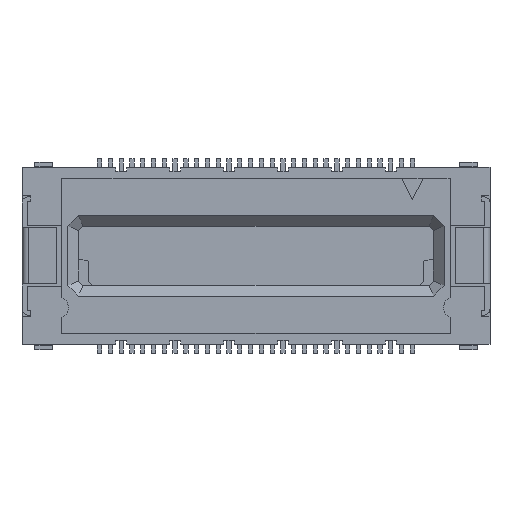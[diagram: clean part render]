
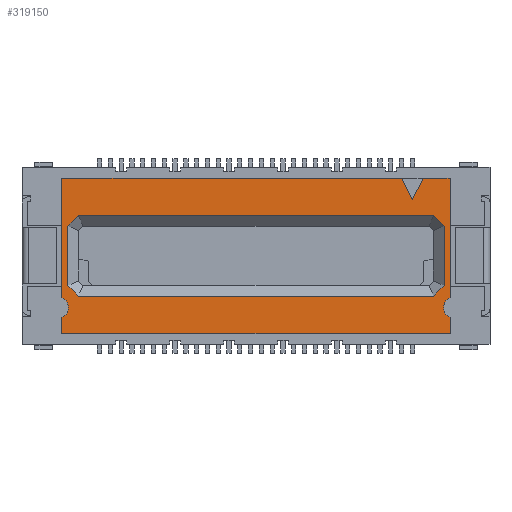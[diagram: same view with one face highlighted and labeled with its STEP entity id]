
A CAD part, top view. The second image highlights one B-rep face of the part: STEP entity #319150.
In plain terms, the highlighted planar face has unit normal (0, 0, 1).
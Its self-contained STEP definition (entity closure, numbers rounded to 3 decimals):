
#2320=CARTESIAN_POINT('',(20.034,-0.955,4.));
#2330=VERTEX_POINT('',#2320);
#2360=CARTESIAN_POINT('',(19.787,-1.202,4.));
#2370=DIRECTION('',(-0.707,-0.707,0.));
#2380=VECTOR('',#2370,1.);
#2390=LINE('',#2360,#2380);
#2400=CARTESIAN_POINT('',(19.541,-1.448,4.));
#2410=VERTEX_POINT('',#2400);
#2420=EDGE_CURVE('',#2330,#2410,#2390,.T.);
#43660=CARTESIAN_POINT('',(19.541,2.292,4.));
#43670=VERTEX_POINT('',#43660);
#43700=CARTESIAN_POINT('',(19.787,2.045,4.));
#43710=DIRECTION('',(0.707,-0.707,0.));
#43720=VECTOR('',#43710,1.);
#43730=LINE('',#43700,#43720);
#43740=CARTESIAN_POINT('',(20.034,1.799,4.));
#43750=VERTEX_POINT('',#43740);
#43760=EDGE_CURVE('',#43670,#43750,#43730,.T.);
#60880=CARTESIAN_POINT('',(3.076,-1.448,4.));
#60890=VERTEX_POINT('',#60880);
#60990=CARTESIAN_POINT('',(-10.581,-1.448,4.));
#61000=DIRECTION('',(-1.,0.,0.));
#61010=VECTOR('',#61000,1.);
#61020=LINE('',#60990,#61010);
#61030=EDGE_CURVE('',#2410,#60890,#61020,.T.);
#75280=CARTESIAN_POINT('',(3.076,2.292,4.));
#75290=VERTEX_POINT('',#75280);
#75320=CARTESIAN_POINT('',(-6.946,2.292,4.));
#75330=DIRECTION('',(1.,0.,0.));
#75340=VECTOR('',#75330,1.);
#75350=LINE('',#75320,#75340);
#75360=EDGE_CURVE('',#75290,#43670,#75350,.T.);
#83430=CARTESIAN_POINT('',(20.309,-1.52,4.));
#83440=VERTEX_POINT('',#83430);
#83600=CARTESIAN_POINT('',(20.309,-2.436,4.));
#83610=VERTEX_POINT('',#83600);
#83640=CARTESIAN_POINT('',(20.509,-1.978,4.));
#83650=DIRECTION('',(0.,0.,1.));
#83660=DIRECTION('',(1.,0.,0.));
#83670=AXIS2_PLACEMENT_3D('',#83640,#83650,#83660);
#83680=CIRCLE('',#83670,0.5);
#83690=EDGE_CURVE('',#83440,#83610,#83680,.T.);
#83830=CARTESIAN_POINT('',(20.309,-3.178,4.));
#83840=VERTEX_POINT('',#83830);
#83890=CARTESIAN_POINT('',(20.309,0.,4.));
#83900=DIRECTION('',(0.,-1.,0.));
#83910=VECTOR('',#83900,1.);
#83920=LINE('',#83890,#83910);
#83930=EDGE_CURVE('',#83610,#83840,#83920,.T.);
#89110=CARTESIAN_POINT('',(17.048,0.,4.));
#89120=DIRECTION('',(0.447,0.894,0.));
#89130=VECTOR('',#89120,1.);
#89140=LINE('',#89110,#89130);
#89150=CARTESIAN_POINT('',(18.559,3.022,4.));
#89160=VERTEX_POINT('',#89150);
#89170=CARTESIAN_POINT('',(19.059,4.022,4.));
#89180=VERTEX_POINT('',#89170);
#89190=EDGE_CURVE('',#89160,#89180,#89140,.T.);
#192890=CARTESIAN_POINT('',(20.07,0.,4.));
#192900=DIRECTION('',(0.447,-0.894,0.));
#192910=VECTOR('',#192900,1.);
#192920=LINE('',#192890,#192910);
#192930=CARTESIAN_POINT('',(18.059,4.022,4.));
#192940=VERTEX_POINT('',#192930);
#192950=EDGE_CURVE('',#192940,#89160,#192920,.T.);
#241770=CARTESIAN_POINT('',(20.309,0.,4.));
#241780=DIRECTION('',(0.,-1.,0.));
#241790=VECTOR('',#241780,1.);
#241800=LINE('',#241770,#241790);
#241810=CARTESIAN_POINT('',(20.309,4.022,4.));
#241820=VERTEX_POINT('',#241810);
#241830=EDGE_CURVE('',#241820,#83440,#241800,.T.);
#303800=CARTESIAN_POINT('',(2.309,-2.436,4.));
#303810=VERTEX_POINT('',#303800);
#303840=CARTESIAN_POINT('',(2.309,0.,4.));
#303850=DIRECTION('',(0.,1.,0.));
#303860=VECTOR('',#303850,1.);
#303870=LINE('',#303840,#303860);
#303880=CARTESIAN_POINT('',(2.309,-3.178,4.));
#303890=VERTEX_POINT('',#303880);
#303900=EDGE_CURVE('',#303890,#303810,#303870,.T.);
#308590=CARTESIAN_POINT('',(20.034,0.422,4.));
#308600=DIRECTION('',(0.,1.,0.));
#308610=VECTOR('',#308600,1.);
#308620=LINE('',#308590,#308610);
#308630=EDGE_CURVE('',#2330,#43750,#308620,.T.);
#318420=CARTESIAN_POINT('',(1.309,-2.313,4.));
#318430=DIRECTION('',(0.,0.,1.));
#318440=DIRECTION('',(1.,0.,0.));
#318450=AXIS2_PLACEMENT_3D('',#318420,#318430,#318440);
#318460=PLANE('',#318450);
#318470=ORIENTED_EDGE('',*,*,#2420,.T.);
#318480=ORIENTED_EDGE('',*,*,#308630,.F.);
#318490=ORIENTED_EDGE('',*,*,#43760,.T.);
#318500=ORIENTED_EDGE('',*,*,#75360,.T.);
#318510=CARTESIAN_POINT('',(2.83,2.045,4.));
#318520=DIRECTION('',(-0.707,-0.707,0.));
#318530=VECTOR('',#318520,1.);
#318540=LINE('',#318510,#318530);
#318550=CARTESIAN_POINT('',(2.584,1.799,4.));
#318560=VERTEX_POINT('',#318550);
#318570=EDGE_CURVE('',#75290,#318560,#318540,.T.);
#318580=ORIENTED_EDGE('',*,*,#318570,.F.);
#318590=CARTESIAN_POINT('',(2.584,0.422,4.));
#318600=DIRECTION('',(0.,1.,0.));
#318610=VECTOR('',#318600,1.);
#318620=LINE('',#318590,#318610);
#318630=CARTESIAN_POINT('',(2.584,-0.955,4.));
#318640=VERTEX_POINT('',#318630);
#318650=EDGE_CURVE('',#318640,#318560,#318620,.T.);
#318660=ORIENTED_EDGE('',*,*,#318650,.T.);
#318670=CARTESIAN_POINT('',(2.83,-1.202,4.));
#318680=DIRECTION('',(0.707,-0.707,0.));
#318690=VECTOR('',#318680,1.);
#318700=LINE('',#318670,#318690);
#318710=EDGE_CURVE('',#318640,#60890,#318700,.T.);
#318720=ORIENTED_EDGE('',*,*,#318710,.F.);
#318730=ORIENTED_EDGE('',*,*,#61030,.T.);
#318740=EDGE_LOOP('',(#318730,#318720,#318660,#318580,#318500,#318490,
#318480,#318470));
#318750=FACE_BOUND('',#318740,.T.);
#318760=ORIENTED_EDGE('',*,*,#303900,.F.);
#318770=CARTESIAN_POINT('',(2.109,-1.978,4.));
#318780=DIRECTION('',(0.,0.,-1.));
#318790=DIRECTION('',(-1.,0.,0.));
#318800=AXIS2_PLACEMENT_3D('',#318770,#318780,#318790);
#318810=CIRCLE('',#318800,0.5);
#318820=CARTESIAN_POINT('',(2.309,-1.52,4.));
#318830=VERTEX_POINT('',#318820);
#318840=EDGE_CURVE('',#318830,#303810,#318810,.T.);
#318850=ORIENTED_EDGE('',*,*,#318840,.T.);
#318860=CARTESIAN_POINT('',(2.309,4.022,4.));
#318870=VERTEX_POINT('',#318860);
#318880=EDGE_CURVE('',#318830,#318870,#303870,.T.);
#318890=ORIENTED_EDGE('',*,*,#318880,.F.);
#318900=CARTESIAN_POINT('',(25.,4.022,4.));
#318910=DIRECTION('',(-1.,0.,0.));
#318920=VECTOR('',#318910,1.);
#318930=LINE('',#318900,#318920);
#318940=EDGE_CURVE('',#192940,#318870,#318930,.T.);
#318950=ORIENTED_EDGE('',*,*,#318940,.T.);
#318960=ORIENTED_EDGE('',*,*,#192950,.F.);
#318970=ORIENTED_EDGE('',*,*,#89190,.F.);
#318980=CARTESIAN_POINT('',(5.,4.022,4.));
#318990=DIRECTION('',(-1.,0.,0.));
#319000=VECTOR('',#318990,1.);
#319010=LINE('',#318980,#319000);
#319020=EDGE_CURVE('',#241820,#89180,#319010,.T.);
#319030=ORIENTED_EDGE('',*,*,#319020,.T.);
#319040=ORIENTED_EDGE('',*,*,#241830,.F.);
#319050=ORIENTED_EDGE('',*,*,#83690,.F.);
#319060=ORIENTED_EDGE('',*,*,#83930,.F.);
#319070=CARTESIAN_POINT('',(22.617,-3.178,4.));
#319080=DIRECTION('',(-1.,0.,0.));
#319090=VECTOR('',#319080,1.);
#319100=LINE('',#319070,#319090);
#319110=EDGE_CURVE('',#83840,#303890,#319100,.T.);
#319120=ORIENTED_EDGE('',*,*,#319110,.F.);
#319130=EDGE_LOOP('',(#319120,#319060,#319050,#319040,#319030,#318970,
#318960,#318950,#318890,#318850,#318760));
#319140=FACE_OUTER_BOUND('',#319130,.T.);
#319150=ADVANCED_FACE('',(#318750,#319140),#318460,.T.);
